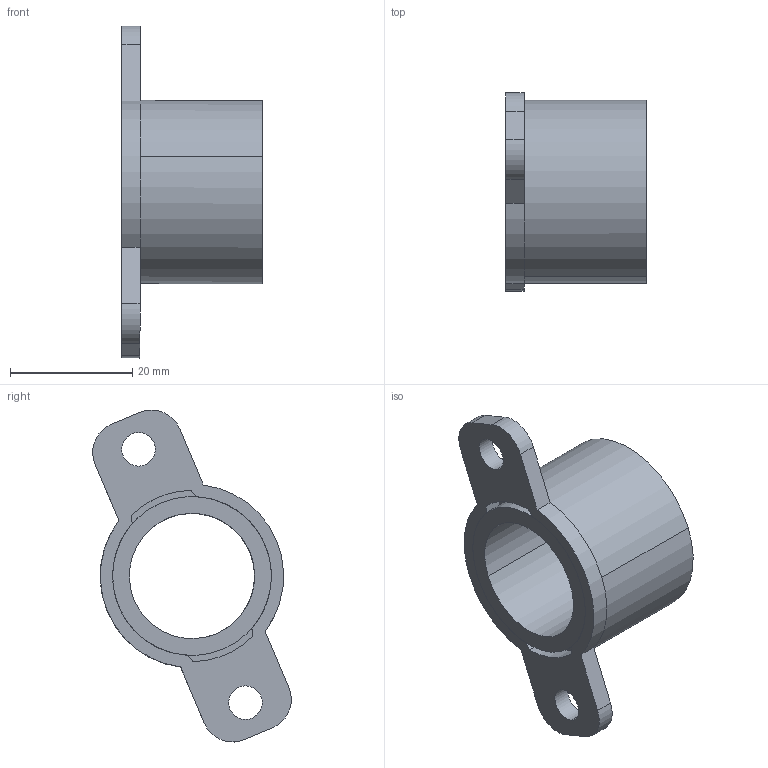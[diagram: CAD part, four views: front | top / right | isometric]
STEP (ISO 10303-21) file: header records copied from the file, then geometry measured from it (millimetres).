
FILE_DESCRIPTION (( 'STEP AP203' ), '1' );
FILE_NAME ('Flange_adapter.STEP', '2026-09-30T10:52:53', ( '' ), ( '' ), 'SwSTEP 2.0', 'SolidWorks 2015', '' );
FILE_SCHEMA (( 'CONFIG_CONTROL_DESIGN' ));
Length unit declared in the file: millimetre
Products named in the file (3): Flange_adapter; flasor adaptor - Kopya; flasor adaptor_3mm
Assembly tree (2 placements, depth 2):
  Flange_adapter
    flasor adaptor - Kopya
    flasor adaptor_3mm
Bounding box: 23.07 x 32.48 x 54.32 mm (x, y, z)
Volume: 9586.7 mm3; surface area: 6108 mm2
Topology: 2 solids, 2 shells, 38 faces, 97 edges, 64 vertices
Faces by surface type: cylinder 21, plane 15, cone 2
Entity records: 1490 total; most frequent: DIRECTION 227, CARTESIAN_POINT 204, ORIENTED_EDGE 194, EDGE_CURVE 97, AXIS2_PLACEMENT_3D 87, VERTEX_POINT 64, LINE 53, VECTOR 53
